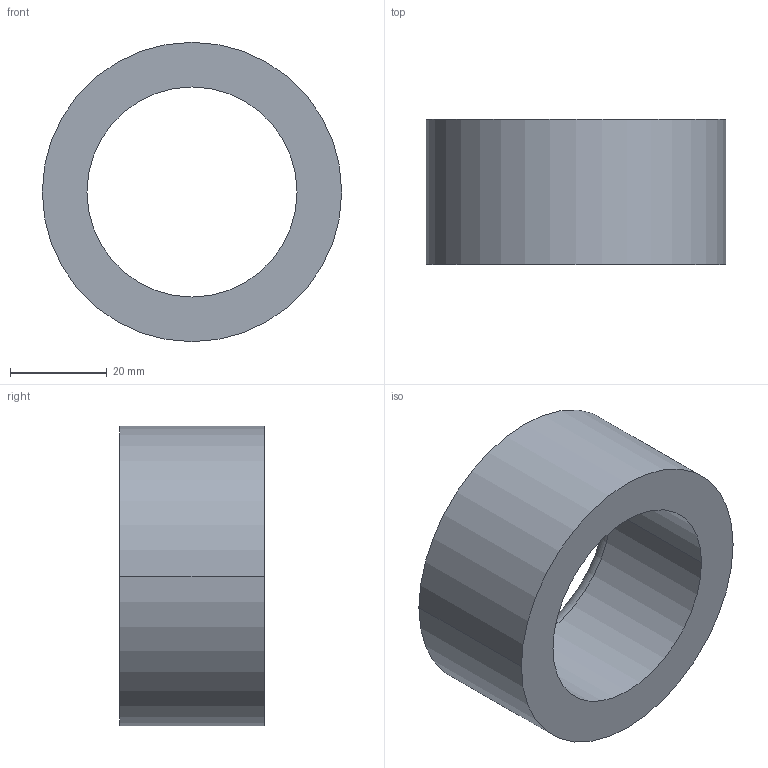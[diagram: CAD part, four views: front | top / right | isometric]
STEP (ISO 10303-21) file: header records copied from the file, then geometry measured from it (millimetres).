
FILE_DESCRIPTION (( 'STEP AP203' ), '1' );
FILE_NAME ('30800.WPP62L43.5.step', '2019-01-23T22:56:47', ( '' ), ( '' ), 'SwSTEP 2.0', 'SolidWorks 2017', '' );
FILE_SCHEMA (( 'CONFIG_CONTROL_DESIGN' ));
Length unit declared in the file: millimetre
Products named in the file (1): 30800.WPP62L43.5
Bounding box: 62 x 30 x 62 mm (x, y, z)
Volume: 45614.9 mm3; surface area: 12809.1 mm2
Topology: 1 solids, 1 shells, 8 faces, 16 edges, 10 vertices
Faces by surface type: cylinder 4, torus 2, plane 2
Entity records: 297 total; most frequent: DIRECTION 46, CARTESIAN_POINT 35, ORIENTED_EDGE 32, AXIS2_PLACEMENT_3D 21, EDGE_CURVE 16, CIRCLE 12, EDGE_LOOP 10, VERTEX_POINT 10
